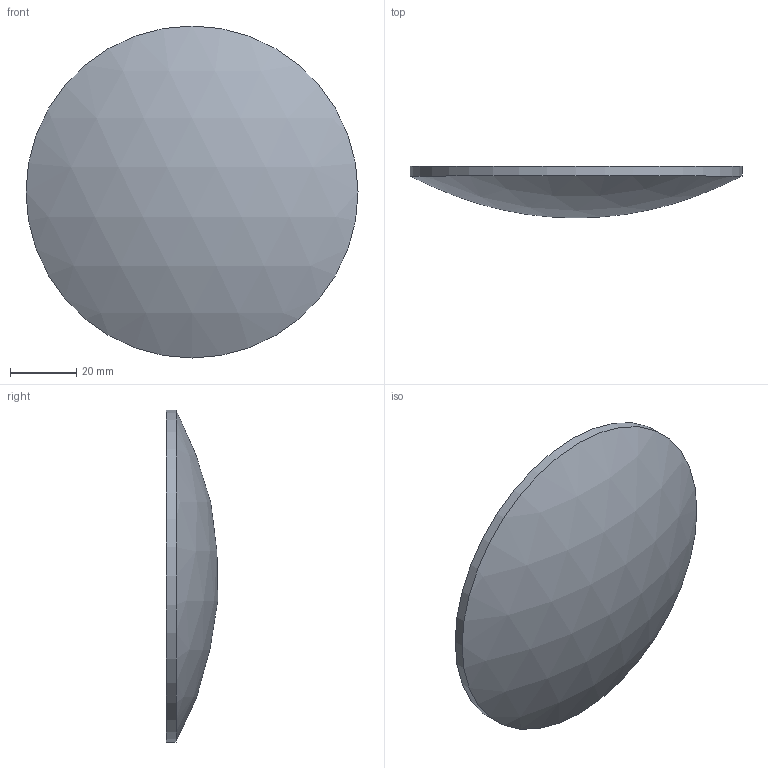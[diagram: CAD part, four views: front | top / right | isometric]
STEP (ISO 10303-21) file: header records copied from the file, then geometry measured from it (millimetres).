
FILE_DESCRIPTION((''),'2;1');
FILE_NAME('Y:\メカ関係\2能登便\素子ﾓﾃﾞﾙ（角屋さま野中さま⇒川島）\5月分\1_球面平凸レンズ-BK7\SLB-P\φ100\SLB-100-200P\SLB-100-200P.stp','2009-05-26T15:54:43',('usernoto011'),(''),'Autodesk Inventor 2008','Autodesk Inventor 2008','');
FILE_SCHEMA(('AUTOMOTIVE_DESIGN { 1 0 10303 214 1 1 1 1 }'));
Length unit declared in the file: millimetre
Products named in the file (1): SLB-100-200P
Bounding box: 100 x 15.53 x 100 mm (x, y, z)
Volume: 74793.1 mm3; surface area: 17156.8 mm2
Topology: 1 solids, 1 shells, 3 faces, 3 edges, 2 vertices
Faces by surface type: sphere 1, cylinder 1, plane 1
Full cylindrical faces by diameter (mm): 100 x1
Entity records: 80 total; most frequent: DIRECTION 12, CARTESIAN_POINT 8, AXIS2_PLACEMENT_3D 6, ORIENTED_EDGE 4, EDGE_LOOP 4, FACE_OUTER_BOUND 3, ADVANCED_FACE 3, DIMENSIONAL_EXPONENTS 2
